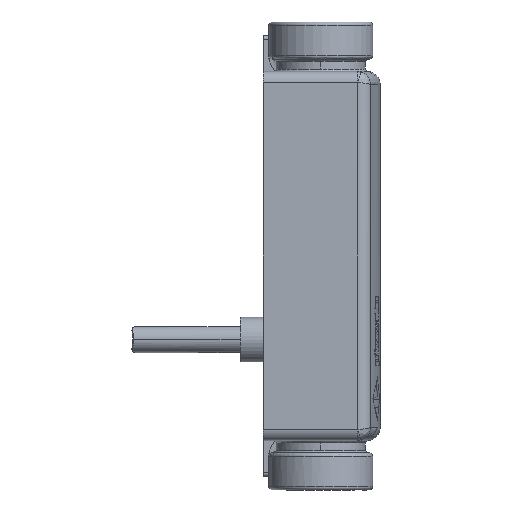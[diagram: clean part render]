
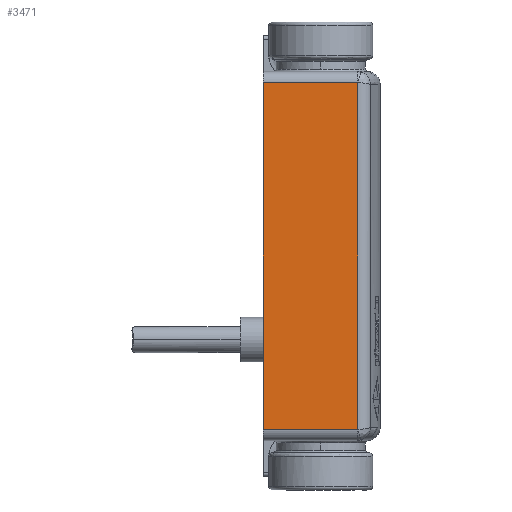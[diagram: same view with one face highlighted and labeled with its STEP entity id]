
A CAD part, left-side view. The second image highlights one B-rep face of the part: STEP entity #3471.
In plain terms, the highlighted planar face has unit normal (-1, 0, 0).
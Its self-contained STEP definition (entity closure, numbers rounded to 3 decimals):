
#2609 = EDGE_LOOP ( 'NONE', ( #6463, #6464, #6465, #6466, #6467, #6468 ) ) ;
#3471 = ADVANCED_FACE ( 'NONE', ( #21058 ), #21070, .T. ) ;
#6463 = ORIENTED_EDGE ( 'NONE', *, *, #16102, .F. ) ;
#6464 = ORIENTED_EDGE ( 'NONE', *, *, #6667, .F. ) ;
#6465 = ORIENTED_EDGE ( 'NONE', *, *, #16104, .F. ) ;
#6466 = ORIENTED_EDGE ( 'NONE', *, *, #16099, .T. ) ;
#6467 = ORIENTED_EDGE ( 'NONE', *, *, #16053, .T. ) ;
#6468 = ORIENTED_EDGE ( 'NONE', *, *, #16058, .T. ) ;
#6667 = EDGE_CURVE ( 'NONE', #10228, #10229, #18875, .T. ) ;
#8771 = VECTOR ( 'NONE', #18883, 1000. ) ;
#9407 = AXIS2_PLACEMENT_3D ( 'NONE', #21057, #21073, #21074 ) ;
#10228 = VERTEX_POINT ( 'NONE', #11633 ) ;
#10229 = VERTEX_POINT ( 'NONE', #11634 ) ;
#10456 = VECTOR ( 'NONE', #17585, 1000. ) ;
#10474 = VECTOR ( 'NONE', #17679, 1000. ) ;
#10484 = VECTOR ( 'NONE', #17676, 1000. ) ;
#11633 = CARTESIAN_POINT ( 'NONE',  ( -20., 31., -46.7 ) ) ;
#11634 = CARTESIAN_POINT ( 'NONE',  ( -20., 31., 46.7 ) ) ;
#11693 = CARTESIAN_POINT ( 'NONE',  ( -20., 5.463, 46.678 ) ) ;
#11712 = CARTESIAN_POINT ( 'NONE',  ( -20., 5.463, -46.678 ) ) ;
#11716 = CARTESIAN_POINT ( 'NONE',  ( -20., 5.618, 46.7 ) ) ;
#11724 = CARTESIAN_POINT ( 'NONE',  ( -20., 5.618, -46.7 ) ) ;
#14489 = VERTEX_POINT ( 'NONE', #11693 ) ;
#14512 = VERTEX_POINT ( 'NONE', #11712 ) ;
#14516 = VERTEX_POINT ( 'NONE', #11716 ) ;
#14524 = VERTEX_POINT ( 'NONE', #11724 ) ;
#14628 = B_SPLINE_CURVE_WITH_KNOTS ( 'NONE', 3,
 ( #17661, #17668, #17672, #17673 ),
 .UNSPECIFIED., .F., .F.,
 ( 4, 4 ),
 ( 0., 1. ),
 .UNSPECIFIED. ) ;
#14637 = B_SPLINE_CURVE_WITH_KNOTS ( 'NONE', 3,
 ( #17586, #17587, #17592, #17593 ),
 .UNSPECIFIED., .F., .F.,
 ( 4, 4 ),
 ( 0., 1. ),
 .UNSPECIFIED. ) ;
#16053 = EDGE_CURVE ( 'NONE', #14512, #14489, #17582, .T. ) ;
#16058 = EDGE_CURVE ( 'NONE', #14489, #14516, #14637, .T. ) ;
#16099 = EDGE_CURVE ( 'NONE', #14524, #14512, #14628, .T. ) ;
#16102 = EDGE_CURVE ( 'NONE', #10229, #14516, #17674, .T. ) ;
#16104 = EDGE_CURVE ( 'NONE', #14524, #10228, #17677, .T. ) ;
#17582 = LINE ( 'NONE', #17584, #10456 ) ;
#17584 = CARTESIAN_POINT ( 'NONE',  ( -20., 5.463, -49.7 ) ) ;
#17585 = DIRECTION ( 'NONE',  ( 0., 0., 1. ) ) ;
#17586 = CARTESIAN_POINT ( 'NONE',  ( -20., 5.463, 46.678 ) ) ;
#17587 = CARTESIAN_POINT ( 'NONE',  ( -20., 5.514, 46.692 ) ) ;
#17592 = CARTESIAN_POINT ( 'NONE',  ( -20., 5.565, 46.7 ) ) ;
#17593 = CARTESIAN_POINT ( 'NONE',  ( -20., 5.618, 46.7 ) ) ;
#17661 = CARTESIAN_POINT ( 'NONE',  ( -20., 5.618, -46.7 ) ) ;
#17668 = CARTESIAN_POINT ( 'NONE',  ( -20., 5.565, -46.7 ) ) ;
#17672 = CARTESIAN_POINT ( 'NONE',  ( -20., 5.514, -46.692 ) ) ;
#17673 = CARTESIAN_POINT ( 'NONE',  ( -20., 5.463, -46.678 ) ) ;
#17674 = LINE ( 'NONE', #17675, #10484 ) ;
#17675 = CARTESIAN_POINT ( 'NONE',  ( -20., -0.5, 46.7 ) ) ;
#17676 = DIRECTION ( 'NONE',  ( 0., -1., 0. ) ) ;
#17677 = LINE ( 'NONE', #17678, #10474 ) ;
#17678 = CARTESIAN_POINT ( 'NONE',  ( -20., -0.5, -46.7 ) ) ;
#17679 = DIRECTION ( 'NONE',  ( 0., 1., 0. ) ) ;
#18846 = CARTESIAN_POINT ( 'NONE',  ( -20., 31., 49.7 ) ) ;
#18875 = LINE ( 'NONE', #18846, #8771 ) ;
#18883 = DIRECTION ( 'NONE',  ( 0., 0., 1. ) ) ;
#21057 = CARTESIAN_POINT ( 'NONE',  ( -20., -0.5, -49.7 ) ) ;
#21058 = FACE_OUTER_BOUND ( 'NONE', #2609, .T. ) ;
#21070 = PLANE ( 'NONE',  #9407 ) ;
#21073 = DIRECTION ( 'NONE',  ( -1., 0., 0. ) ) ;
#21074 = DIRECTION ( 'NONE',  ( 0., 0., 1. ) ) ;
